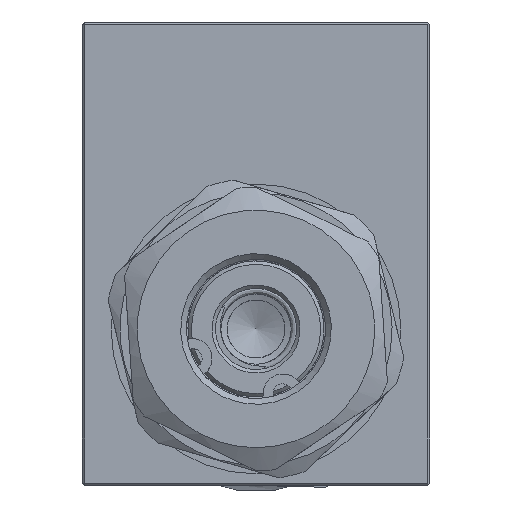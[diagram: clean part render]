
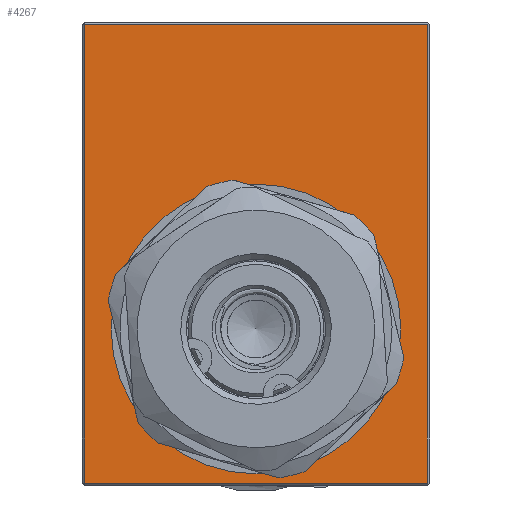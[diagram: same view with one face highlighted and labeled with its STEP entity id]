
A CAD part, left-side view. The second image highlights one B-rep face of the part: STEP entity #4267.
In plain terms, the highlighted planar face has unit normal (-1, 0, 0).
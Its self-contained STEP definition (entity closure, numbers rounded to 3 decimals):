
#184=LINE('',#15073,#342);
#186=LINE('',#15077,#344);
#188=LINE('',#15081,#346);
#189=LINE('',#15083,#347);
#342=VECTOR('',#7472,1000.);
#344=VECTOR('',#7476,1000.);
#346=VECTOR('',#7480,1000.);
#347=VECTOR('',#7483,1000.);
#536=CIRCLE('',#6735,12.488);
#863=PLANE('',#6734);
#1140=ORIENTED_EDGE('',*,*,#2228,.T.);
#1141=ORIENTED_EDGE('',*,*,#2227,.T.);
#1142=ORIENTED_EDGE('',*,*,#2225,.T.);
#1143=ORIENTED_EDGE('',*,*,#2223,.T.);
#1144=ORIENTED_EDGE('',*,*,#2229,.F.);
#2223=EDGE_CURVE('',#2779,#2778,#184,.T.);
#2225=EDGE_CURVE('',#2780,#2779,#186,.T.);
#2227=EDGE_CURVE('',#2777,#2780,#188,.T.);
#2228=EDGE_CURVE('',#2778,#2777,#189,.T.);
#2229=EDGE_CURVE('',#2781,#2781,#536,.F.);
#2777=VERTEX_POINT('',#15063);
#2778=VERTEX_POINT('',#15070);
#2779=VERTEX_POINT('',#15074);
#2780=VERTEX_POINT('',#15078);
#2781=VERTEX_POINT('',#15086);
#3298=EDGE_LOOP('',(#1140,#1141,#1142,#1143));
#3299=EDGE_LOOP('',(#1144));
#3787=FACE_BOUND('',#3298,.T.);
#3788=FACE_BOUND('',#3299,.T.);
#4267=ADVANCED_FACE('',(#3787,#3788),#863,.F.);
#6734=AXIS2_PLACEMENT_3D('',#15084,#7484,#7485);
#6735=AXIS2_PLACEMENT_3D('',#15085,#7486,#7487);
#7472=DIRECTION('',(0.,1.,0.));
#7476=DIRECTION('',(0.,0.,1.));
#7480=DIRECTION('',(0.,-1.,0.));
#7483=DIRECTION('',(0.,0.,-1.));
#7484=DIRECTION('',(1.,0.,0.));
#7485=DIRECTION('',(0.,0.,-1.));
#7486=DIRECTION('',(1.,0.,0.));
#7487=DIRECTION('',(0.,0.,-1.));
#15063=CARTESIAN_POINT('',(-33.962,14.785,-19.782));
#15070=CARTESIAN_POINT('',(-33.962,14.785,19.778));
#15073=CARTESIAN_POINT('',(-33.962,-14.985,19.778));
#15074=CARTESIAN_POINT('',(-33.962,-14.785,19.778));
#15077=CARTESIAN_POINT('',(-33.962,-14.785,19.978));
#15078=CARTESIAN_POINT('',(-33.962,-14.785,-19.782));
#15081=CARTESIAN_POINT('',(-33.962,-14.985,-19.782));
#15083=CARTESIAN_POINT('',(-33.962,14.785,19.978));
#15084=CARTESIAN_POINT('',(-33.962,-14.985,19.978));
#15085=CARTESIAN_POINT('',(-33.962,0.,-6.495));
#15086=CARTESIAN_POINT('',(-33.962,0.,-18.983));
